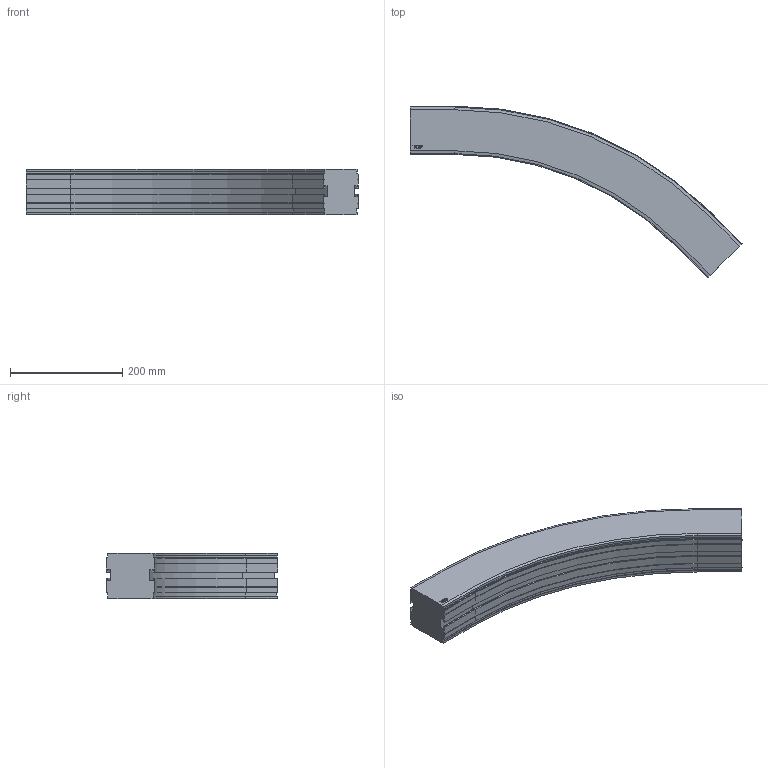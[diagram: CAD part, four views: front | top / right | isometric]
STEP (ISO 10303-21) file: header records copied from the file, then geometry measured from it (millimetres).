
FILE_DESCRIPTION((''),'2;1');
FILE_NAME('C:\Vault Klient\Projekt\Koncept konstruktion\Serie 830 Balk\830-5350.stp','2009-11-27T10:26:58',('Mathias'),(''),'Autodesk Inventor 2010','Autodesk Inventor 2010','');
FILE_SCHEMA(('AUTOMOTIVE_DESIGN { 1 0 10303 214 1 1 1 1 }'));
Length unit declared in the file: millimetre
Products named in the file (1): 830-5350
Bounding box: 591.24 x 305.71 x 81.5 mm (x, y, z)
Volume: 4195769.7 mm3; surface area: 271223.1 mm2
Topology: 1 solids, 1 shells, 169 faces, 446 edges, 284 vertices
Faces by surface type: plane 109, cylinder 30, bspline 14, cone 12, torus 4
Entity records: 5295 total; most frequent: CARTESIAN_POINT 1094, ORIENTED_EDGE 892, DIRECTION 802, EDGE_CURVE 446, VECTOR 346, LINE 346, VERTEX_POINT 284, AXIS2_PLACEMENT_3D 228
